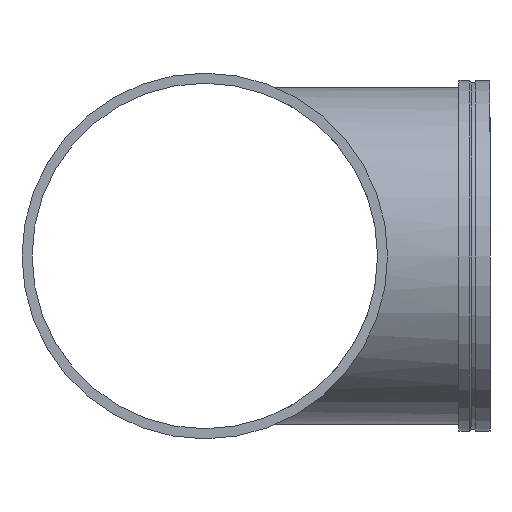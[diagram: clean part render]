
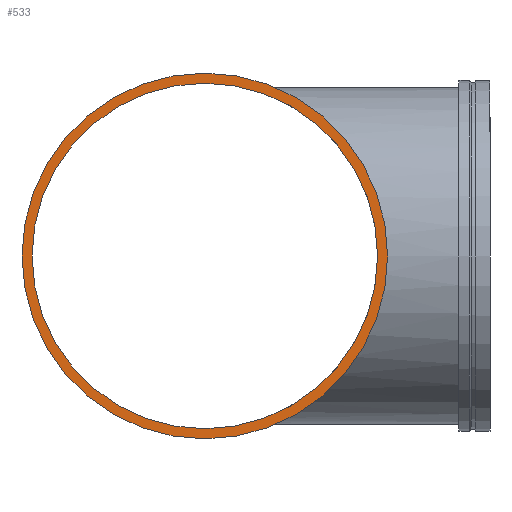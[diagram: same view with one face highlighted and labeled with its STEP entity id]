
A CAD part, left-side view. The second image highlights one B-rep face of the part: STEP entity #533.
In plain terms, the highlighted planar face has unit normal (-1, 0, 0).
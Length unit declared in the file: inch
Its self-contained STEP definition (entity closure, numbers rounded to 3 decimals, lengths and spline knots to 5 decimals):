
#58=FACE_BOUND('',#128,.T.);
#67=PLANE('',#626);
#92=FACE_OUTER_BOUND('',#127,.T.);
#127=EDGE_LOOP('',(#465,#466));
#128=EDGE_LOOP('',(#467,#468));
#151=CIRCLE('',#587,25.);
#152=CIRCLE('',#588,25.);
#175=CIRCLE('',#624,23.625);
#176=CIRCLE('',#625,23.625);
#239=VERTEX_POINT('',#1209);
#240=VERTEX_POINT('',#1211);
#263=VERTEX_POINT('',#1278);
#264=VERTEX_POINT('',#1280);
#299=EDGE_CURVE('',#239,#240,#151,.T.);
#300=EDGE_CURVE('',#240,#239,#152,.T.);
#331=EDGE_CURVE('',#264,#263,#175,.T.);
#332=EDGE_CURVE('',#263,#264,#176,.T.);
#465=ORIENTED_EDGE('',*,*,#300,.F.);
#466=ORIENTED_EDGE('',*,*,#299,.F.);
#467=ORIENTED_EDGE('',*,*,#331,.T.);
#468=ORIENTED_EDGE('',*,*,#332,.T.);
#533=ADVANCED_FACE('',(#92,#58),#67,.T.);
#587=AXIS2_PLACEMENT_3D('',#1212,#716,#717);
#588=AXIS2_PLACEMENT_3D('',#1213,#718,#719);
#624=AXIS2_PLACEMENT_3D('',#1281,#798,#799);
#625=AXIS2_PLACEMENT_3D('',#1282,#800,#801);
#626=AXIS2_PLACEMENT_3D('',#1283,#802,#803);
#716=DIRECTION('center_axis',(1.,0.,0.));
#717=DIRECTION('ref_axis',(0.,0.,1.));
#718=DIRECTION('center_axis',(1.,0.,0.));
#719=DIRECTION('ref_axis',(0.,0.,1.));
#798=DIRECTION('center_axis',(1.,0.,0.));
#799=DIRECTION('ref_axis',(0.,0.,1.));
#800=DIRECTION('center_axis',(1.,0.,0.));
#801=DIRECTION('ref_axis',(0.,0.,1.));
#802=DIRECTION('center_axis',(-1.,0.,0.));
#803=DIRECTION('ref_axis',(0.,0.,-1.));
#1209=CARTESIAN_POINT('',(-41.,25.,0.));
#1211=CARTESIAN_POINT('',(-41.,-25.,0.));
#1212=CARTESIAN_POINT('Origin',(-41.,0.,0.));
#1213=CARTESIAN_POINT('Origin',(-41.,0.,0.));
#1278=CARTESIAN_POINT('',(-41.,23.625,0.));
#1280=CARTESIAN_POINT('',(-41.,-23.625,0.));
#1281=CARTESIAN_POINT('Origin',(-41.,0.,0.));
#1282=CARTESIAN_POINT('Origin',(-41.,0.,0.));
#1283=CARTESIAN_POINT('Origin',(-41.,-25.,0.));
